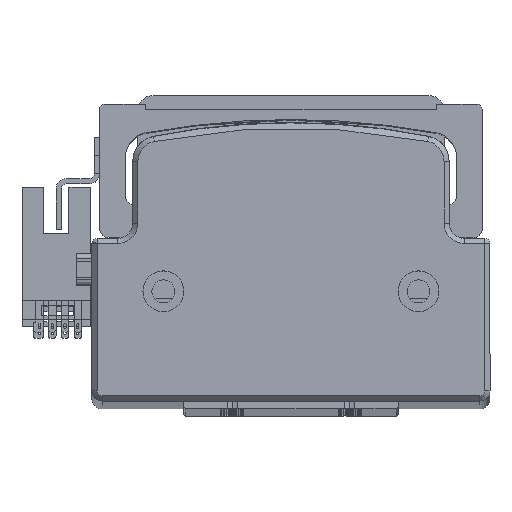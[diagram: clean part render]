
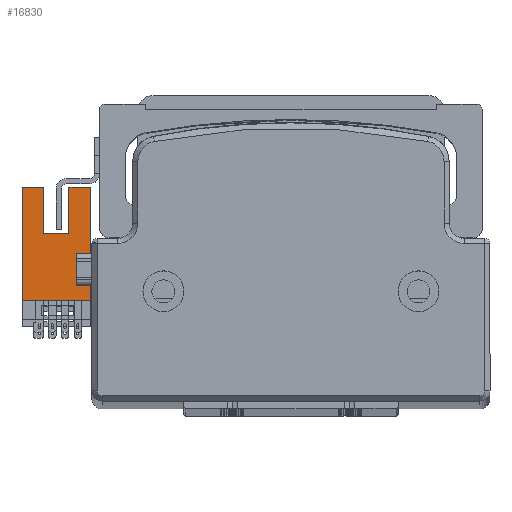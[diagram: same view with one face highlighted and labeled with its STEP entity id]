
A CAD part, top view. The second image highlights one B-rep face of the part: STEP entity #16830.
In plain terms, the highlighted planar face has unit normal (0, 0, 1) as drawn and (1, 0, 0) by its records, which use the part's own axes.
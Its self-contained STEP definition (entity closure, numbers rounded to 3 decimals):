
#1024 = EDGE_CURVE ( 'NONE', #44757, #33421, #11336, .T. ) ;
#1426 = LINE ( 'NONE', #15343, #21901 ) ;
#2070 = VERTEX_POINT ( 'NONE', #34511 ) ;
#3796 = ORIENTED_EDGE ( 'NONE', *, *, #21098, .F. ) ;
#4586 = DIRECTION ( 'NONE',  ( 0., -1., 0. ) ) ;
#5482 = LINE ( 'NONE', #44021, #14529 ) ;
#5573 = EDGE_CURVE ( 'NONE', #20863, #8540, #45817, .T. ) ;
#5664 = CARTESIAN_POINT ( 'NONE',  ( 3.2, 6.55, 0. ) ) ;
#5811 = EDGE_CURVE ( 'NONE', #9434, #25055, #7266, .T. ) ;
#6714 = VECTOR ( 'NONE', #20637, 1000. ) ;
#7019 = VECTOR ( 'NONE', #11618, 1000. ) ;
#7227 = ORIENTED_EDGE ( 'NONE', *, *, #19185, .F. ) ;
#7266 = LINE ( 'NONE', #15732, #46797 ) ;
#7737 = CARTESIAN_POINT ( 'NONE',  ( 3.2, 3.85, 3. ) ) ;
#7917 = LINE ( 'NONE', #39623, #6714 ) ;
#8221 = LINE ( 'NONE', #7737, #7019 ) ;
#8540 = VERTEX_POINT ( 'NONE', #12949 ) ;
#9434 = VERTEX_POINT ( 'NONE', #10657 ) ;
#10325 = CARTESIAN_POINT ( 'NONE',  ( 3.2, 6.55, 22.2 ) ) ;
#10534 = ORIENTED_EDGE ( 'NONE', *, *, #37972, .T. ) ;
#10625 = CARTESIAN_POINT ( 'NONE',  ( 3.2, 3.85, 9.2 ) ) ;
#10657 = CARTESIAN_POINT ( 'NONE',  ( 3.2, 6.55, 0. ) ) ;
#11336 = LINE ( 'NONE', #31420, #21551 ) ;
#11618 = DIRECTION ( 'NONE',  ( 0., 1., 0. ) ) ;
#11712 = ORIENTED_EDGE ( 'NONE', *, *, #1024, .T. ) ;
#11849 = DIRECTION ( 'NONE',  ( 0., -1., 0. ) ) ;
#12018 = EDGE_CURVE ( 'NONE', #9434, #30423, #37821, .T. ) ;
#12264 = LINE ( 'NONE', #32675, #40343 ) ;
#12918 = AXIS2_PLACEMENT_3D ( 'NONE', #16058, #19931, #46632 ) ;
#12949 = CARTESIAN_POINT ( 'NONE',  ( 3.2, -2.65, 22.2 ) ) ;
#14497 = VERTEX_POINT ( 'NONE', #45362 ) ;
#14529 = VECTOR ( 'NONE', #36286, 1000. ) ;
#15343 = CARTESIAN_POINT ( 'NONE',  ( 3.2, 3.85, 0. ) ) ;
#15501 = CARTESIAN_POINT ( 'NONE',  ( 3.2, 2.35, 13.2 ) ) ;
#15653 = CARTESIAN_POINT ( 'NONE',  ( 3.2, -2.65, 13.2 ) ) ;
#15732 = CARTESIAN_POINT ( 'NONE',  ( 3.2, 3.85, 0. ) ) ;
#16058 = CARTESIAN_POINT ( 'NONE',  ( 3.2, 3.85, 0. ) ) ;
#16713 = LINE ( 'NONE', #49484, #25672 ) ;
#16742 = EDGE_CURVE ( 'NONE', #8540, #18289, #16713, .T. ) ;
#16830 = ADVANCED_FACE ( 'NONE', ( #30996 ), #35040, .T. ) ;
#17697 = ORIENTED_EDGE ( 'NONE', *, *, #5573, .T. ) ;
#18126 = VERTEX_POINT ( 'NONE', #10625 ) ;
#18289 = VERTEX_POINT ( 'NONE', #30682 ) ;
#19185 = EDGE_CURVE ( 'NONE', #2070, #33421, #21294, .T. ) ;
#19240 = DIRECTION ( 'NONE',  ( 0., 0., 1. ) ) ;
#19931 = DIRECTION ( 'NONE',  ( 1., 0., 0. ) ) ;
#20134 = EDGE_CURVE ( 'NONE', #24948, #18126, #1426, .T. ) ;
#20637 = DIRECTION ( 'NONE',  ( 0., 0., 1. ) ) ;
#20863 = VERTEX_POINT ( 'NONE', #15653 ) ;
#21098 = EDGE_CURVE ( 'NONE', #25055, #18289, #5482, .T. ) ;
#21294 = LINE ( 'NONE', #45861, #30200 ) ;
#21551 = VECTOR ( 'NONE', #4586, 1000. ) ;
#21557 = EDGE_CURVE ( 'NONE', #14497, #44757, #7917, .T. ) ;
#21901 = VECTOR ( 'NONE', #19240, 1000. ) ;
#22906 = CARTESIAN_POINT ( 'NONE',  ( 3.2, -2.65, 13.2 ) ) ;
#23045 = DIRECTION ( 'NONE',  ( 0., 0., 1. ) ) ;
#23472 = VECTOR ( 'NONE', #34489, 1000. ) ;
#24948 = VERTEX_POINT ( 'NONE', #38231 ) ;
#25055 = VERTEX_POINT ( 'NONE', #38905 ) ;
#25672 = VECTOR ( 'NONE', #37908, 1000. ) ;
#26282 = EDGE_LOOP ( 'NONE', ( #17697, #26336, #3796, #38338, #35887, #44125, #26738, #10534, #40459, #11712, #7227, #42412 ) ) ;
#26336 = ORIENTED_EDGE ( 'NONE', *, *, #16742, .T. ) ;
#26738 = ORIENTED_EDGE ( 'NONE', *, *, #20134, .T. ) ;
#27720 = VECTOR ( 'NONE', #28800, 1000. ) ;
#28800 = DIRECTION ( 'NONE',  ( 0., 0., 1. ) ) ;
#30200 = VECTOR ( 'NONE', #49725, 1000. ) ;
#30423 = VERTEX_POINT ( 'NONE', #41760 ) ;
#30682 = CARTESIAN_POINT ( 'NONE',  ( 3.2, -6.85, 22.2 ) ) ;
#30996 = FACE_OUTER_BOUND ( 'NONE', #26282, .T. ) ;
#31420 = CARTESIAN_POINT ( 'NONE',  ( 3.2, 3.85, 22.2 ) ) ;
#32675 = CARTESIAN_POINT ( 'NONE',  ( 3.2, -6.85, 9.2 ) ) ;
#33421 = VERTEX_POINT ( 'NONE', #47444 ) ;
#33788 = EDGE_CURVE ( 'NONE', #24948, #30423, #8221, .T. ) ;
#34489 = DIRECTION ( 'NONE',  ( 0., 1., 0. ) ) ;
#34511 = CARTESIAN_POINT ( 'NONE',  ( 3.2, 2.35, 13.2 ) ) ;
#35040 = PLANE ( 'NONE',  #12918 ) ;
#35887 = ORIENTED_EDGE ( 'NONE', *, *, #12018, .T. ) ;
#36286 = DIRECTION ( 'NONE',  ( 0., 0., 1. ) ) ;
#36533 = DIRECTION ( 'NONE',  ( 0., 1., 0. ) ) ;
#37821 = LINE ( 'NONE', #5664, #27720 ) ;
#37908 = DIRECTION ( 'NONE',  ( 0., -1., 0. ) ) ;
#37972 = EDGE_CURVE ( 'NONE', #18126, #14497, #12264, .T. ) ;
#38231 = CARTESIAN_POINT ( 'NONE',  ( 3.2, 3.85, 3. ) ) ;
#38338 = ORIENTED_EDGE ( 'NONE', *, *, #5811, .F. ) ;
#38905 = CARTESIAN_POINT ( 'NONE',  ( 3.2, -6.85, 0. ) ) ;
#39623 = CARTESIAN_POINT ( 'NONE',  ( 3.2, 6.55, 0. ) ) ;
#39627 = EDGE_CURVE ( 'NONE', #20863, #2070, #43788, .T. ) ;
#40343 = VECTOR ( 'NONE', #36533, 1000. ) ;
#40459 = ORIENTED_EDGE ( 'NONE', *, *, #21557, .T. ) ;
#41760 = CARTESIAN_POINT ( 'NONE',  ( 3.2, 6.55, 3. ) ) ;
#42412 = ORIENTED_EDGE ( 'NONE', *, *, #39627, .F. ) ;
#43788 = LINE ( 'NONE', #15501, #23472 ) ;
#44021 = CARTESIAN_POINT ( 'NONE',  ( 3.2, -6.85, 0. ) ) ;
#44125 = ORIENTED_EDGE ( 'NONE', *, *, #33788, .F. ) ;
#44610 = VECTOR ( 'NONE', #23045, 1000. ) ;
#44757 = VERTEX_POINT ( 'NONE', #10325 ) ;
#45362 = CARTESIAN_POINT ( 'NONE',  ( 3.2, 6.55, 9.2 ) ) ;
#45817 = LINE ( 'NONE', #22906, #44610 ) ;
#45861 = CARTESIAN_POINT ( 'NONE',  ( 3.2, 2.35, 13.2 ) ) ;
#46632 = DIRECTION ( 'NONE',  ( 0., 0., -1. ) ) ;
#46797 = VECTOR ( 'NONE', #11849, 1000. ) ;
#47444 = CARTESIAN_POINT ( 'NONE',  ( 3.2, 2.35, 22.2 ) ) ;
#49484 = CARTESIAN_POINT ( 'NONE',  ( 3.2, 3.85, 22.2 ) ) ;
#49725 = DIRECTION ( 'NONE',  ( 0., 0., 1. ) ) ;
